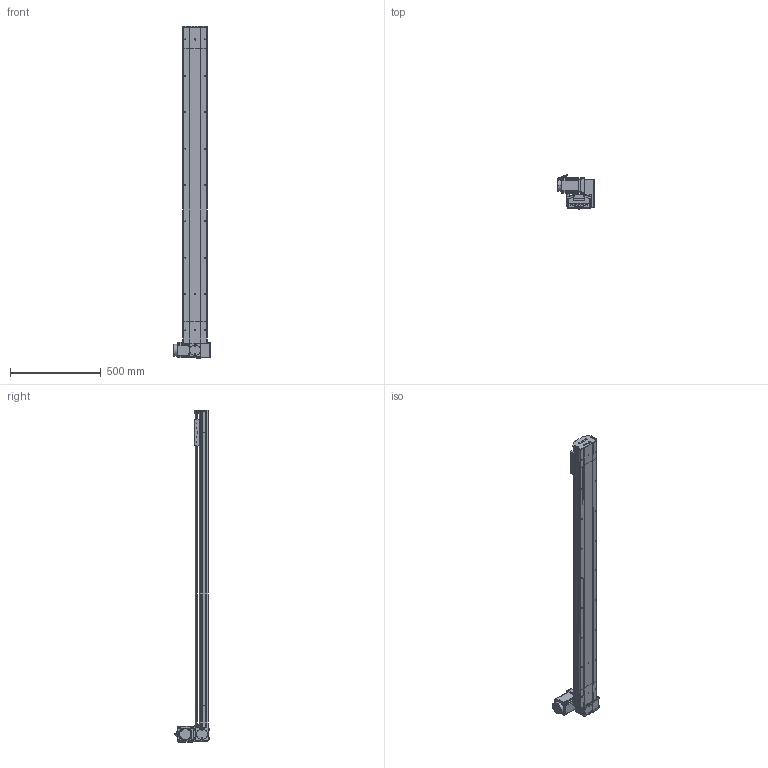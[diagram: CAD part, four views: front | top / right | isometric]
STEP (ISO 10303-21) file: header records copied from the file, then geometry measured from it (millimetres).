
FILE_DESCRIPTION (( 'STEP AP214' ), '1' );
FILE_NAME ('D14 TBH LT S1500.STEP', '2010-06-29T14:02:11', ( 'Conseil Régional Haute-Normandie' ), ( 'Conseil Régional Haute-Normandie' ), 'SwSTEP 2.0', 'SolidWorks 2010', '' );
FILE_SCHEMA (( 'AUTOMOTIVE_DESIGN' ));
Length unit declared in the file: millimetre
Products named in the file (39): plaque de  bout head D14 LT_Default; corp head D14_Default; plaque de  bout tail D14_Default; couvercle D14 head_Default; couroie 2_Default; D14 TB H LT_Default; poulie tail_Default; tete d''axe haut D14; vis M5 L16_Default; Moteur motionking 90BLDC100A-640; couvercle D14_Default; codeur 90BLDC100-640; corps 90BLDC100A-640; vis M5 L8 90°_Default; Arbre+rail tail D14; poulie head_Default; Arbre+rail head D14; Couroie_Default; avant 90BLDC100A-640; vis M5 L12_Default; Conecteur2_Default; Conecteur_Default; renvoi LH_Default; Cache_Default; Cvis M5 L70_Default; guide D14; Chariot D14; chariot D14B_Default; Vis M5 L16-2_Default; vis M5 L5_Default; Cache arbre_Default; Plaque racord D14_Default; Tail D14B_Default; D14 TBH LT S1500; Rail + couroie D14 Course 1500 ; corpl tail D14_Default; couvercle D14 course L1500_Default; D14 couroie L1500_Default; corpl 1500_Default
Assembly tree (68 placements, depth 4):
  D14 TBH LT S1500
    chariot D14B_Default
      vis M5 L12_Default  x4
      guide D14  x2
      Chariot D14
    D14 TB H LT_Default
      Cvis M5 L70_Default  x4
      Moteur motionking 90BLDC100A-640
        avant 90BLDC100A-640
        Conecteur_Default
        Conecteur2_Default
        codeur 90BLDC100-640
        corps 90BLDC100A-640
      vis M5 L12_Default  x12
      Vis M5 L16-2_Default  x4
      couvercle D14 head_Default
      vis M5 L5_Default  x2
      poulie head_Default
      plaque de  bout head D14 LT_Default
      Cache arbre_Default
      corp head D14_Default
      Cache_Default  x2
      Arbre+rail head D14
      renvoi LH_Default
      Plaque racord D14_Default
      couroie 2_Default
    D14 couroie L1500_Default
      Rail + couroie D14 Course 1500 
      couvercle D14 course L1500_Default
      corpl 1500_Default
    Tail D14B_Default
      vis M5 L8 90°_Default  x2
      Couroie_Default
      vis M5 L16_Default  x2
      vis M5 L12_Default  x4
      couvercle D14_Default
      corpl tail D14_Default
      Arbre+rail tail D14
      tete d''axe haut D14
      plaque de  bout tail D14_Default
      poulie tail_Default
Bounding box: 207.2 x 189.1 x 1825.75 mm (x, y, z)
Volume: 7608444.4 mm3; surface area: 2581621.5 mm2
Topology: 92 solids, 92 shells, 2645 faces, 6467 edges, 4170 vertices
Faces by surface type: plane 1593, cylinder 739, bspline 136, torus 89, cone 84, sphere 4
Entity records: 79640 total; most frequent: CARTESIAN_POINT 23621, ORIENTED_EDGE 9794, DIRECTION 9588, EDGE_CURVE 4897, LINE 3286, VECTOR 3286, VERTEX_POINT 3220, AXIS2_PLACEMENT_3D 3151
